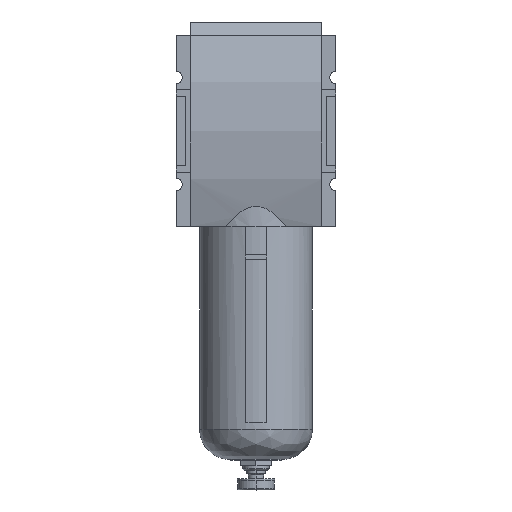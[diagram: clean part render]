
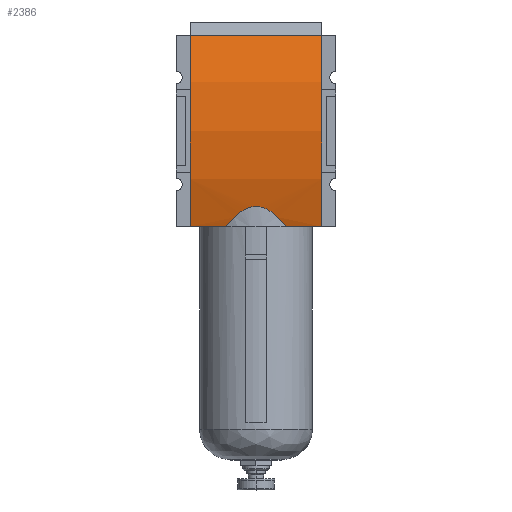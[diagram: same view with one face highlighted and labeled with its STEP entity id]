
A CAD part, top view. The second image highlights one B-rep face of the part: STEP entity #2386.
In plain terms, the highlighted cylindrical face has radius 150 mm (diameter 300 mm), a partial arc.
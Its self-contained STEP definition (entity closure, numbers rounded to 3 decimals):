
#69=CARTESIAN_POINT('',(-35.,0.,-98.5));
#70=DIRECTION('',(1.,0.,0.));
#71=DIRECTION('',(0.,0.34,0.94));
#72=AXIS2_PLACEMENT_3D('',#69,#70,#71);
#586=CARTESIAN_POINT('',(35.,0.,-98.5));
#587=DIRECTION('',(1.,0.,0.));
#588=DIRECTION('',(0.,0.34,0.94));
#589=AXIS2_PLACEMENT_3D('',#586,#587,#588);
#641=DIRECTION('',(1.,0.,0.));
#642=VECTOR('',#641,18.78);
#643=CARTESIAN_POINT('',(-35.,-51.,42.564));
#644=LINE('',#643,#642);
#650=DIRECTION('',(1.,0.,0.));
#651=VECTOR('',#650,18.78);
#652=CARTESIAN_POINT('',(16.22,-51.,42.564));
#653=LINE('',#652,#651);
#846=DIRECTION('',(1.,0.,0.));
#847=VECTOR('',#846,70.);
#848=CARTESIAN_POINT('',(-35.,51.,42.564));
#849=LINE('',#848,#847);
#850=CARTESIAN_POINT('',(16.22,-51.,42.564));
#851=CARTESIAN_POINT('',(15.79,-50.472,42.755));
#852=CARTESIAN_POINT('',(14.952,-49.476,43.108));
#853=CARTESIAN_POINT('',(13.777,-48.164,43.559));
#854=CARTESIAN_POINT('',(12.676,-47.013,43.944));
#855=CARTESIAN_POINT('',(11.646,-46.006,44.272));
#856=CARTESIAN_POINT('',(10.681,-45.128,44.552));
#857=CARTESIAN_POINT('',(9.774,-44.361,44.791));
#858=CARTESIAN_POINT('',(8.921,-43.694,44.996));
#859=CARTESIAN_POINT('',(8.117,-43.115,45.171));
#860=CARTESIAN_POINT('',(7.352,-42.61,45.321));
#861=CARTESIAN_POINT('',(6.626,-42.173,45.45));
#862=CARTESIAN_POINT('',(5.933,-41.796,45.56));
#863=CARTESIAN_POINT('',(5.269,-41.471,45.653));
#864=CARTESIAN_POINT('',(4.626,-41.192,45.733));
#865=CARTESIAN_POINT('',(4.004,-40.955,45.801));
#866=CARTESIAN_POINT('',(3.4,-40.757,45.857));
#867=CARTESIAN_POINT('',(2.811,-40.595,45.903));
#868=CARTESIAN_POINT('',(2.235,-40.465,45.939));
#869=CARTESIAN_POINT('',(1.669,-40.366,45.966));
#870=CARTESIAN_POINT('',(1.109,-40.297,45.986));
#871=CARTESIAN_POINT('',(0.553,-40.255,45.997));
#872=CARTESIAN_POINT('',(0.,-40.242,
46.001));
#873=CARTESIAN_POINT('',(-0.553,-40.255,
45.997));
#874=CARTESIAN_POINT('',(-1.109,-40.297,45.986));
#875=CARTESIAN_POINT('',(-1.669,-40.366,45.966));
#876=CARTESIAN_POINT('',(-2.235,-40.465,45.939));
#877=CARTESIAN_POINT('',(-2.811,-40.595,45.903));
#878=CARTESIAN_POINT('',(-3.4,-40.757,45.857));
#879=CARTESIAN_POINT('',(-4.004,-40.955,45.801));
#880=CARTESIAN_POINT('',(-4.626,-41.192,45.733));
#881=CARTESIAN_POINT('',(-5.269,-41.471,45.653));
#882=CARTESIAN_POINT('',(-5.933,-41.796,45.559));
#883=CARTESIAN_POINT('',(-6.626,-42.173,45.45));
#884=CARTESIAN_POINT('',(-7.352,-42.61,45.321));
#885=CARTESIAN_POINT('',(-8.117,-43.115,45.171));
#886=CARTESIAN_POINT('',(-8.921,-43.694,44.996));
#887=CARTESIAN_POINT('',(-9.774,-44.361,44.791));
#888=CARTESIAN_POINT('',(-10.681,-45.128,44.552));
#889=CARTESIAN_POINT('',(-11.646,-46.006,44.272));
#890=CARTESIAN_POINT('',(-12.676,-47.013,43.944));
#891=CARTESIAN_POINT('',(-13.777,-48.164,43.559));
#892=CARTESIAN_POINT('',(-14.952,-49.476,43.108));
#893=CARTESIAN_POINT('',(-15.79,-50.472,42.755));
#894=CARTESIAN_POINT('',(-16.22,-51.,42.564));
#1138=CARTESIAN_POINT('',(-35.,51.,42.564));
#1139=CARTESIAN_POINT('',(-35.,-51.,42.564));
#1140=VERTEX_POINT('',#1138);
#1141=VERTEX_POINT('',#1139);
#1146=CARTESIAN_POINT('',(35.,51.,42.564));
#1147=CARTESIAN_POINT('',(35.,-51.,42.564));
#1148=VERTEX_POINT('',#1146);
#1149=VERTEX_POINT('',#1147);
#1226=CARTESIAN_POINT('',(-16.22,-51.,42.564));
#1227=VERTEX_POINT('',#1226);
#1228=CARTESIAN_POINT('',(16.22,-51.,42.564));
#1229=VERTEX_POINT('',#1228);
#2372=CARTESIAN_POINT('',(-35.,0.,-98.5));
#2373=DIRECTION('',(1.,0.,0.));
#2374=DIRECTION('',(0.,0.,-1.));
#2375=AXIS2_PLACEMENT_3D('',#2372,#2373,#2374);
#2376=CYLINDRICAL_SURFACE('',#2375,150.);
#2377=ORIENTED_EDGE('',*,*,#2133,.F.);
#2378=ORIENTED_EDGE('',*,*,#1507,.F.);
#2379=ORIENTED_EDGE('',*,*,#2278,.T.);
#2380=ORIENTED_EDGE('',*,*,#2070,.T.);
#2381=ORIENTED_EDGE('',*,*,#2137,.F.);
#2383=ORIENTED_EDGE('',*,*,#2382,.T.);
#2384=EDGE_LOOP('',(#2377,#2378,#2379,#2380,#2381,#2383));
#2385=FACE_OUTER_BOUND('',#2384,.F.);
#2386=ADVANCED_FACE('',(#2385),#2376,.T.);
#73=CIRCLE('',#72,150.);
#590=CIRCLE('',#589,150.);
#895=B_SPLINE_CURVE_WITH_KNOTS('',3,(#850,#851,#852,#853,#854,#855,#856,#857,
#858,#859,#860,#861,#862,#863,#864,#865,#866,#867,#868,#869,#870,#871,#872,#873,
#874,#875,#876,#877,#878,#879,#880,#881,#882,#883,#884,#885,#886,#887,#888,#889,
#890,#891,#892,#893,#894),.UNSPECIFIED.,.F.,.F.,(4,1,1,1,1,1,1,1,1,1,1,1,1,1,1,
1,1,1,1,1,1,1,1,1,1,1,1,1,1,1,1,1,1,1,1,1,1,1,1,1,1,1,4),(0.,
0.024,0.048,0.071,0.095,
0.119,0.143,0.167,0.19,
0.214,0.238,0.262,0.286,
0.31,0.333,0.357,0.381,
0.405,0.429,0.452,0.476,0.5,
0.524,0.548,0.571,0.595,
0.619,0.643,0.667,0.69,
0.714,0.738,0.762,0.786,
0.81,0.833,0.857,0.881,
0.905,0.929,0.952,0.976,1.),
.UNSPECIFIED.);
#1507=EDGE_CURVE('',#1140,#1141,#73,.T.);
#2070=EDGE_CURVE('',#1148,#1149,#590,.T.);
#2133=EDGE_CURVE('',#1141,#1227,#644,.T.);
#2137=EDGE_CURVE('',#1229,#1149,#653,.T.);
#2278=EDGE_CURVE('',#1140,#1148,#849,.T.);
#2382=EDGE_CURVE('',#1229,#1227,#895,.T.);
